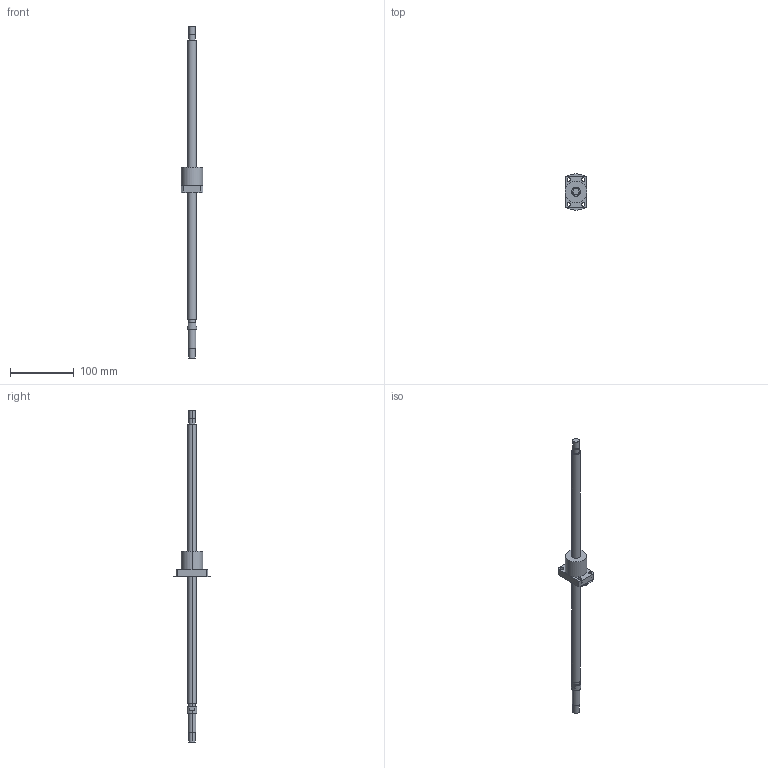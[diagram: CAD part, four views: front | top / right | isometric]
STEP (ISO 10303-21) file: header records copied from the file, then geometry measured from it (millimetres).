
FILE_DESCRIPTION((''),'2;1');
FILE_NAME('R14-5B1-FSW-439-521','2008-03-28T',('mahdi'),(''),'PRO/ENGINEER BY PARAMETRIC TECHNOLOGY CORPORATION, 2005070','PRO/ENGINEER BY PARAMETRIC TECHNOLOGY CORPORATION, 2005070','');
FILE_SCHEMA(('CONFIG_CONTROL_DESIGN'));
Length unit declared in the file: millimetre
Products named in the file (1): R14-5B1-FSW-439-521
Bounding box: 34 x 57 x 521 mm (x, y, z)
Volume: 112751 mm3; surface area: 30023.7 mm2
Topology: 1 solids, 1 shells, 65 faces, 146 edges, 96 vertices
Faces by surface type: cylinder 38, plane 27
Entity records: 1906 total; most frequent: DIRECTION 360, CARTESIAN_POINT 307, ORIENTED_EDGE 292, AXIS2_PLACEMENT_3D 149, EDGE_CURVE 146, VERTEX_POINT 96, EDGE_LOOP 86, CIRCLE 84
